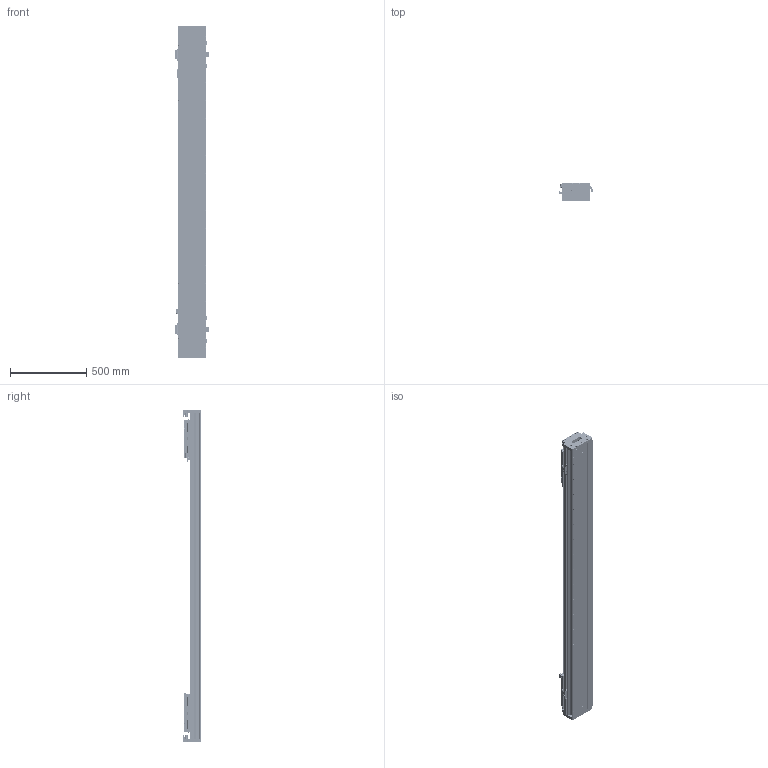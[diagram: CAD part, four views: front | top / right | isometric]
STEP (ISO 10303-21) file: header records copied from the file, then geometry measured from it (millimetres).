
FILE_DESCRIPTION (( 'STEP AP203' ), '1' );
FILE_NAME ('DKW188-2×C32-W090(T1520-L005-0.2).STEP', '2022-03-08T08:42:11', ( '微软用户' ), ( '微软中国' ), 'SwSTEP 2.0', 'SolidWorks 2018', '' );
FILE_SCHEMA (( 'CONFIG_CONTROL_DESIGN' ));
Length unit declared in the file: millimetre
Products named in the file (27): DKW168-HXJ-ZJ-00 笢潔滅袉砎蝶; pm-y65; 11899-0001-003-00 傷啣; DKW-GYP-ZJ-00 笢潔嫖萇覜茼え; 10980-0001-003-00 嫖萇羲壽嘐隅釱; DKW168-HXJ-00 遣喳砎蝶; DKW-KGZ-ZJ-00 中间光电开关支架; 嫖萇羲壽蚾饜极; 11899-0001-004-00 詩湍嶺輸; EE_SX674A; 嫖萇羲壽蚾饜极A; 11899-0001-005-00 詩湍揤輸; 11899-0001-001-00 菁釱; CKM03-W090-C1C2-TP-0.2 珨极萇儂; DKW-SG-GYP-H-00 嫖萇覜茼え; 11899-0001-006-00 嶺輸菜輸; SSR25-DG; DKW188-2×C32-W090(T1520-L005-0.2); DKW168-RU-DTJ-00 RU2黍杅芛盓殤; 11899-0001-002-00 詩湍裔啣; SSR25XW1UUC1; RUS嫖掑喜; DKW188 单轴模组-拉钢带组件; CKMA01-W090-TRLxxx; Ru2; DKW168-HYB-00 賑輸揤啣; 11500-0001-010-00 賑怢啣
Assembly tree (53 placements, depth 3):
  DKW188-2×C32-W090(T1520-L005-0.2)
    11899-0001-001-00 菁釱
    SSR25-DG  x2
    SSR25XW1UUC1  x8
    CKMA01-W090-TRLxxx
    11500-0001-010-00 賑怢啣  x2
    DKW188 单轴模组-拉钢带组件
      11899-0001-003-00 傷啣  x2
      DKW168-HXJ-00 遣喳砎蝶  x4
      11899-0001-004-00 詩湍嶺輸  x2
      11899-0001-005-00 詩湍揤輸  x2
      11899-0001-006-00 嶺輸菜輸  x2
      11899-0001-002-00 詩湍裔啣
    DKW168-HYB-00 賑輸揤啣  x4
    嫖萇羲壽蚾饜极
      pm-y65  x2
      10980-0001-003-00 嫖萇羲壽嘐隅釱
    嫖萇羲壽蚾饜极A
      pm-y65  x2
      10980-0001-003-00 嫖萇羲壽嘐隅釱
    DKW-SG-GYP-H-00 嫖萇覜茼え  x2
    DKW168-RU-DTJ-00 RU2黍杅芛盓殤  x2
    RUS嫖掑喜
    Ru2  x2
    DKW168-HXJ-ZJ-00 笢潔滅袉砎蝶
    DKW-GYP-ZJ-00 笢潔嫖萇覜茼え
    DKW-KGZ-ZJ-00 中间光电开关支架
    EE_SX674A
    CKM03-W090-C1C2-TP-0.2 珨极萇儂  x2
Bounding box: 222.1 x 120 x 2176 mm (x, y, z)
Volume: 19226950.7 mm3; surface area: 4409351 mm2
Topology: 56 solids, 154 shells, 7052 faces, 18364 edges, 11643 vertices
Faces by surface type: plane 3570, cylinder 2156, cone 776, bspline 550
Entity records: 121618 total; most frequent: CARTESIAN_POINT 40565, ORIENTED_EDGE 15987, DIRECTION 15600, EDGE_CURVE 8034, AXIS2_PLACEMENT_3D 5338, VERTEX_POINT 5254, VECTOR 4924, LINE 4924
